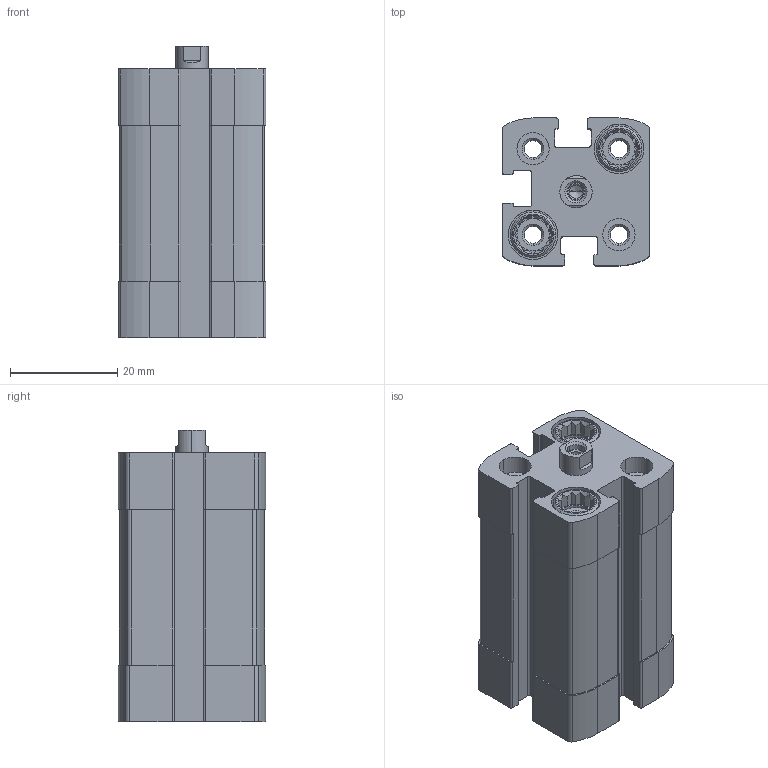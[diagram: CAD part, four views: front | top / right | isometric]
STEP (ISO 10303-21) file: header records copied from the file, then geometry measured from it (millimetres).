
FILE_DESCRIPTION (( 'STEP AP203' ), '1' );
FILE_NAME ('CCN12-15F.STEP', '2017-03-23T18:02:02', ( '' ), ( '' ), 'SwSTEP 2.0', 'SolidWorks 2016', '' );
FILE_SCHEMA (( 'CONFIG_CONTROL_DESIGN' ));
Length unit declared in the file: millimetre
Products named in the file (3): CCN12-15F---(Z); CCN12-15F_(KS); CCN12-15F
Assembly tree (2 placements, depth 2):
  CCN12-15F
    CCN12-15F---(Z)
    CCN12-15F_(KS)
Bounding box: 27.5 x 27.5 x 54.2 mm (x, y, z)
Volume: 26939.2 mm3; surface area: 14523.7 mm2
Topology: 2 solids, 2 shells, 363 faces, 940 edges, 615 vertices
Faces by surface type: plane 187, cylinder 134, cone 42
Entity records: 11521 total; most frequent: CARTESIAN_POINT 2215, DIRECTION 1896, ORIENTED_EDGE 1876, EDGE_CURVE 938, AXIS2_PLACEMENT_3D 688, VERTEX_POINT 615, LINE 520, VECTOR 520
